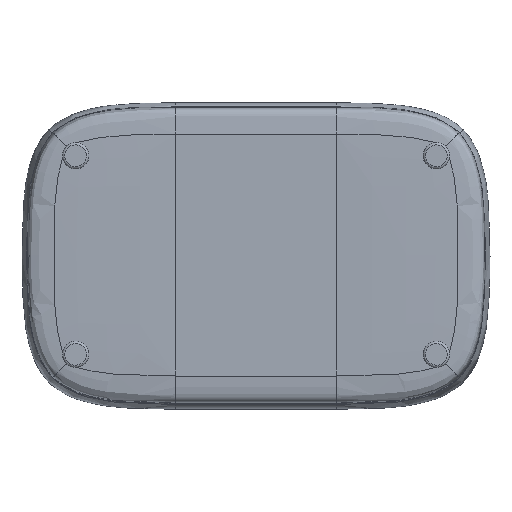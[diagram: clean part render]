
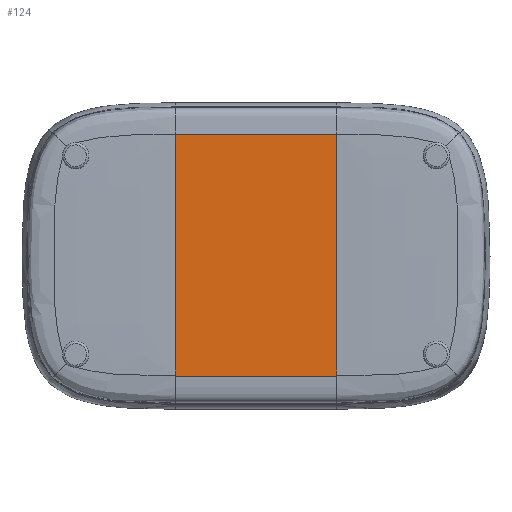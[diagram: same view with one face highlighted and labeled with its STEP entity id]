
A CAD part, front view. The second image highlights one B-rep face of the part: STEP entity #124.
In plain terms, the highlighted free-form (B-spline) face has degree [1, 3] with [2, 15] control points.
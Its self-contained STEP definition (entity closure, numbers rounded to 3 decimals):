
#124=ADVANCED_FACE('',(#218),#1189,.T.);
#218=FACE_OUTER_BOUND('',#312,.T.);
#312=EDGE_LOOP('',(#612,#613,#614,#615));
#612=ORIENTED_EDGE('',*,*,#807,.F.);
#613=ORIENTED_EDGE('',*,*,#806,.T.);
#614=ORIENTED_EDGE('',*,*,#805,.F.);
#615=ORIENTED_EDGE('',*,*,#804,.F.);
#804=EDGE_CURVE('',#1080,#1081,#978,.T.);
#805=EDGE_CURVE('',#1081,#1093,#979,.T.);
#806=EDGE_CURVE('',#1092,#1093,#980,.T.);
#807=EDGE_CURVE('',#1092,#1080,#981,.T.);
#978=B_SPLINE_CURVE_WITH_KNOTS('',3,(#38758,#38759,#38760,#38761,#38762,
#38763,#38764,#38765,#38766,#38767,#38768,#38769,#38770,#38771,#38772),
 .UNSPECIFIED.,.F.,.F.,(4,1,1,1,1,1,1,1,1,1,1,1,4),(-1.,-0.875,-0.75,-0.625,
-0.5,-0.25,0.,0.25,0.5,0.625,0.75,0.875,1.),.UNSPECIFIED.);
#979=B_SPLINE_CURVE_WITH_KNOTS('',1,(#38773,#38774),.UNSPECIFIED.,.F.,.F.,
(2,2),(0.,350.),.UNSPECIFIED.);
#980=B_SPLINE_CURVE_WITH_KNOTS('',3,(#38775,#38776,#38777,#38778,#38779,
#38780,#38781,#38782,#38783,#38784,#38785,#38786,#38787,#38788,#38789),
 .UNSPECIFIED.,.F.,.F.,(4,1,1,1,1,1,1,1,1,1,1,1,4),(-1.,-0.875,-0.75,-0.625,
-0.5,-0.25,0.,0.25,0.5,0.625,0.75,0.875,1.),.UNSPECIFIED.);
#981=B_SPLINE_CURVE_WITH_KNOTS('',1,(#38790,#38791),.UNSPECIFIED.,.F.,.F.,
(2,2),(-350.,0.),.UNSPECIFIED.);
#1080=VERTEX_POINT('',#32630);
#1081=VERTEX_POINT('',#32631);
#1092=VERTEX_POINT('',#32642);
#1093=VERTEX_POINT('',#32643);
#1189=B_SPLINE_SURFACE_WITH_KNOTS('',1,3,((#32522,#32523,#32524,#32525,
#32526,#32527,#32528,#32529,#32530,#32531,#32532,#32533,#32534,#32535,#32536),
(#32537,#32538,#32539,#32540,#32541,#32542,#32543,#32544,#32545,#32546,
#32547,#32548,#32549,#32550,#32551)),.UNSPECIFIED.,.F.,.F.,.F.,(2,2),(4,
1,1,1,1,1,1,1,1,1,1,1,4),(0.,350.),(-1.,-0.875,-0.75,-0.625,
-0.5,-0.25,0.,0.25,0.5,0.625,0.75,0.875,1.),.UNSPECIFIED.);
#32522=CARTESIAN_POINT('',(-175.,-166.046,-260.411));
#32523=CARTESIAN_POINT('',(-175.,-166.29,-253.717));
#32524=CARTESIAN_POINT('',(-175.,-166.715,-238.736));
#32525=CARTESIAN_POINT('',(-175.,-167.193,-212.09));
#32526=CARTESIAN_POINT('',(-175.,-167.535,-181.864));
#32527=CARTESIAN_POINT('',(-175.,-167.839,-137.586));
#32528=CARTESIAN_POINT('',(-175.,-167.991,-76.274));
#32529=CARTESIAN_POINT('',(-175.,-167.991,2.074));
#32530=CARTESIAN_POINT('',(-175.,-167.991,80.421));
#32531=CARTESIAN_POINT('',(-175.,-167.839,141.734));
#32532=CARTESIAN_POINT('',(-175.,-167.535,186.012));
#32533=CARTESIAN_POINT('',(-175.,-167.193,216.238));
#32534=CARTESIAN_POINT('',(-175.,-166.715,242.884));
#32535=CARTESIAN_POINT('',(-175.,-166.29,257.864));
#32536=CARTESIAN_POINT('',(-175.,-166.046,264.559));
#32537=CARTESIAN_POINT('',(175.,-166.046,-260.411));
#32538=CARTESIAN_POINT('',(175.,-166.29,-253.717));
#32539=CARTESIAN_POINT('',(175.,-166.715,-238.736));
#32540=CARTESIAN_POINT('',(175.,-167.193,-212.09));
#32541=CARTESIAN_POINT('',(175.,-167.535,-181.864));
#32542=CARTESIAN_POINT('',(175.,-167.839,-137.586));
#32543=CARTESIAN_POINT('',(175.,-167.991,-76.274));
#32544=CARTESIAN_POINT('',(175.,-167.991,2.074));
#32545=CARTESIAN_POINT('',(175.,-167.991,80.421));
#32546=CARTESIAN_POINT('',(175.,-167.839,141.734));
#32547=CARTESIAN_POINT('',(175.,-167.535,186.012));
#32548=CARTESIAN_POINT('',(175.,-167.193,216.238));
#32549=CARTESIAN_POINT('',(175.,-166.715,242.884));
#32550=CARTESIAN_POINT('',(175.,-166.29,257.864));
#32551=CARTESIAN_POINT('',(175.,-166.046,264.559));
#32630=CARTESIAN_POINT('',(-175.,-166.046,-260.411));
#32631=CARTESIAN_POINT('',(-175.,-166.046,264.559));
#32642=CARTESIAN_POINT('',(175.,-166.046,-260.411));
#32643=CARTESIAN_POINT('',(175.,-166.046,264.559));
#38758=CARTESIAN_POINT('',(-175.,-166.046,-260.411));
#38759=CARTESIAN_POINT('',(-175.,-166.29,-253.717));
#38760=CARTESIAN_POINT('',(-175.,-166.715,-238.736));
#38761=CARTESIAN_POINT('',(-175.,-167.193,-212.09));
#38762=CARTESIAN_POINT('',(-175.,-167.535,-181.864));
#38763=CARTESIAN_POINT('',(-175.,-167.839,-137.586));
#38764=CARTESIAN_POINT('',(-175.,-167.991,-76.274));
#38765=CARTESIAN_POINT('',(-175.,-167.991,2.074));
#38766=CARTESIAN_POINT('',(-175.,-167.991,80.421));
#38767=CARTESIAN_POINT('',(-175.,-167.839,141.734));
#38768=CARTESIAN_POINT('',(-175.,-167.535,186.012));
#38769=CARTESIAN_POINT('',(-175.,-167.193,216.238));
#38770=CARTESIAN_POINT('',(-175.,-166.715,242.884));
#38771=CARTESIAN_POINT('',(-175.,-166.29,257.864));
#38772=CARTESIAN_POINT('',(-175.,-166.046,264.559));
#38773=CARTESIAN_POINT('',(-175.,-166.046,264.559));
#38774=CARTESIAN_POINT('',(175.,-166.046,264.559));
#38775=CARTESIAN_POINT('',(175.,-166.046,-260.411));
#38776=CARTESIAN_POINT('',(175.,-166.29,-253.717));
#38777=CARTESIAN_POINT('',(175.,-166.715,-238.736));
#38778=CARTESIAN_POINT('',(175.,-167.193,-212.09));
#38779=CARTESIAN_POINT('',(175.,-167.535,-181.864));
#38780=CARTESIAN_POINT('',(175.,-167.839,-137.586));
#38781=CARTESIAN_POINT('',(175.,-167.991,-76.274));
#38782=CARTESIAN_POINT('',(175.,-167.991,2.074));
#38783=CARTESIAN_POINT('',(175.,-167.991,80.421));
#38784=CARTESIAN_POINT('',(175.,-167.839,141.734));
#38785=CARTESIAN_POINT('',(175.,-167.535,186.012));
#38786=CARTESIAN_POINT('',(175.,-167.193,216.238));
#38787=CARTESIAN_POINT('',(175.,-166.715,242.884));
#38788=CARTESIAN_POINT('',(175.,-166.29,257.864));
#38789=CARTESIAN_POINT('',(175.,-166.046,264.559));
#38790=CARTESIAN_POINT('',(175.,-166.046,-260.411));
#38791=CARTESIAN_POINT('',(-175.,-166.046,-260.411));
